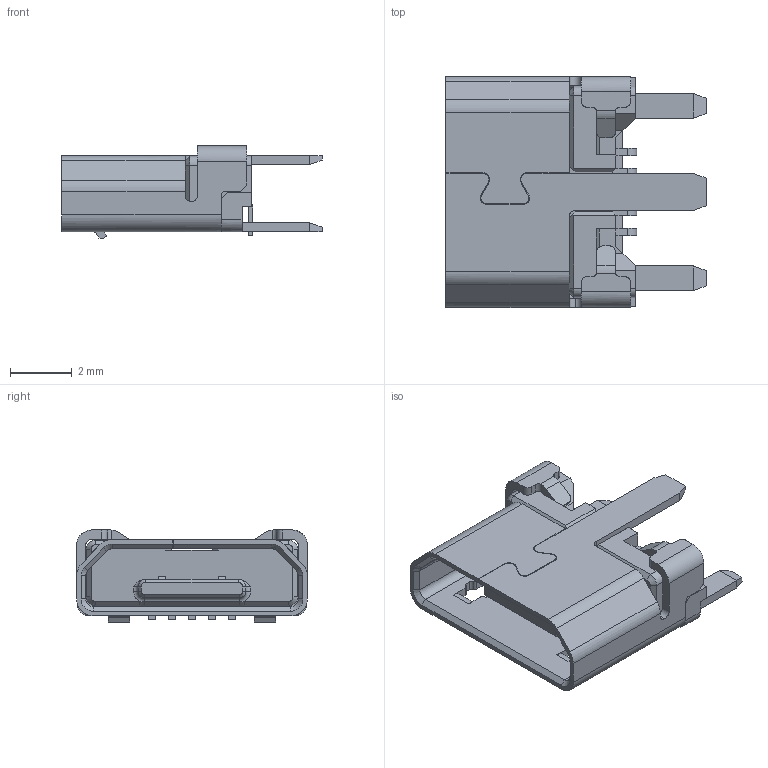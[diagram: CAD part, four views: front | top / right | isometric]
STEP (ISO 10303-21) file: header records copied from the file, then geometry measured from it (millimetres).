
FILE_DESCRIPTION (( 'STEP AP203' ), '1' );
FILE_NAME ('Micro usb 5P B母座 直边3脚插板立贴.STEP', '2018-10-09T08:47:32', ( '' ), ( '' ), 'SwSTEP 2.0', 'SolidWorks 2010', '' );
FILE_SCHEMA (( 'CONFIG_CONTROL_DESIGN' ));
Length unit declared in the file: millimetre
Products named in the file (1): Micro usb 5P B母座 直边3脚插板立贴
Bounding box: 8.45 x 7.5 x 2.99 mm (x, y, z)
Volume: 58.5 mm3; surface area: 312.7 mm2
Topology: 1 solids, 1 shells, 390 faces, 1097 edges, 701 vertices
Faces by surface type: plane 247, cylinder 119, cone 18, torus 4, bspline 2
Entity records: 13053 total; most frequent: CARTESIAN_POINT 3183, ORIENTED_EDGE 2194, DIRECTION 1822, EDGE_CURVE 1097, VECTOR 756, LINE 756, VERTEX_POINT 701, AXIS2_PLACEMENT_3D 533
